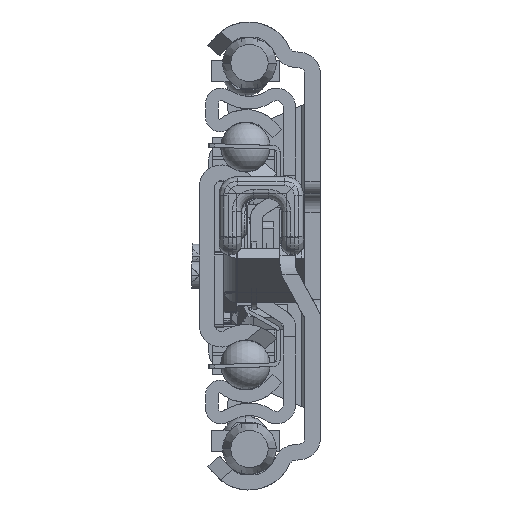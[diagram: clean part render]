
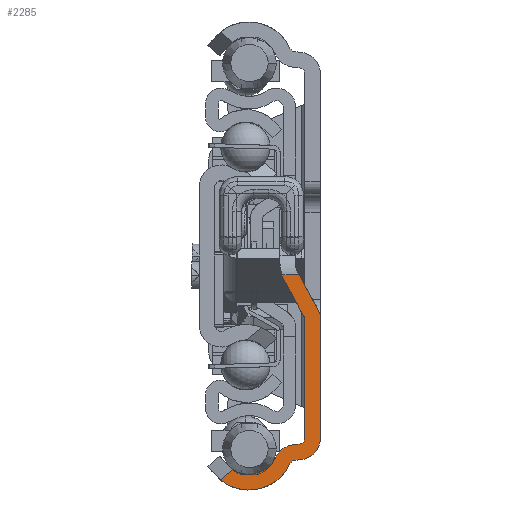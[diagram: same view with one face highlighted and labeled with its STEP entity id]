
A CAD part, left-side view. The second image highlights one B-rep face of the part: STEP entity #2285.
In plain terms, the highlighted planar face has unit normal (-1, 0, 0).
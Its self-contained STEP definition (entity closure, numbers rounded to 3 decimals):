
#45=DIRECTION('',(0.,0.769,-0.639));
#46=VECTOR('',#45,2.575);
#47=CARTESIAN_POINT('',(0.,14.098,
-34.377));
#48=LINE('',#47,#46);
#49=CARTESIAN_POINT('',(0.,11.5,-30.4));
#50=DIRECTION('',(-1.,0.,0.));
#51=DIRECTION('',(0.,0.547,-0.837));
#52=AXIS2_PLACEMENT_3D('',#49,#50,#51);
#54=CARTESIAN_POINT('',(0.,4.008,-33.854));
#55=DIRECTION('',(-1.,0.,0.));
#56=DIRECTION('',(0.,0.087,0.996));
#57=AXIS2_PLACEMENT_3D('',#54,#55,#56);
#59=DIRECTION('',(0.,-0.996,0.087));
#60=VECTOR('',#59,0.904);
#61=CARTESIAN_POINT('',(0.,4.313,-30.368));
#62=LINE('',#61,#60);
#63=DIRECTION('',(0.,0.,1.));
#64=VECTOR('',#63,19.293);
#65=CARTESIAN_POINT('',(0.,2.5,-29.293));
#66=LINE('',#65,#64);
#67=DIRECTION('',(0.,-0.477,-0.879));
#68=VECTOR('',#67,6.873);
#69=CARTESIAN_POINT('',(0.,5.775,-3.958));
#70=LINE('',#69,#68);
#71=CARTESIAN_POINT('',(0.,0.5,-1.099));
#72=DIRECTION('',(-1.,0.,0.));
#73=DIRECTION('',(0.,0.946,-0.324));
#74=AXIS2_PLACEMENT_3D('',#71,#72,#73);
#76=DIRECTION('',(0.,1.,0.));
#77=VECTOR('',#76,2.78);
#78=CARTESIAN_POINT('',(0.,3.397,-3.04));
#79=LINE('',#78,#77);
#80=CARTESIAN_POINT('',(0.,2.5,-9.942));
#81=DIRECTION('',(1.,0.,0.));
#82=DIRECTION('',(0.,-0.879,0.477));
#83=AXIS2_PLACEMENT_3D('',#80,#81,#82);
#85=CARTESIAN_POINT('',(0.,3.5,-29.293));
#86=DIRECTION('',(-1.,0.,0.));
#87=DIRECTION('',(0.,-0.087,-0.996));
#88=AXIS2_PLACEMENT_3D('',#85,#86,#87);
#90=DIRECTION('',(0.,0.996,-0.087));
#91=VECTOR('',#90,0.904);
#92=CARTESIAN_POINT('',(0.,3.195,-32.78));
#93=LINE('',#92,#91);
#94=CARTESIAN_POINT('',(0.,11.5,-30.4));
#95=DIRECTION('',(1.,0.,0.));
#96=DIRECTION('',(0.,-0.908,-0.419));
#97=AXIS2_PLACEMENT_3D('',#94,#95,#96);
#615=DIRECTION('',(0.,0.,1.));
#616=VECTOR('',#615,19.351);
#617=CARTESIAN_POINT('',(0.,0.,-29.293));
#618=LINE('',#617,#616);
#1023=CARTESIAN_POINT('',(0.,16.079,
-36.021));
#1077=CARTESIAN_POINT('',(0.,14.098,
-34.377));
#1366=CARTESIAN_POINT('',(0.,3.5,-29.293));
#1367=DIRECTION('',(1.,0.,0.));
#1368=DIRECTION('',(0.,-1.,0.));
#1369=AXIS2_PLACEMENT_3D('',#1366,#1367,#1368);
#1376=CARTESIAN_POINT('',(0.,4.008,-33.854));
#1377=DIRECTION('',(1.,0.,0.));
#1378=DIRECTION('',(0.,0.908,0.419));
#1379=AXIS2_PLACEMENT_3D('',#1376,#1377,#1378);
#1416=DIRECTION('',(0.,0.477,0.879));
#1417=VECTOR('',#1416,6.495);
#1418=CARTESIAN_POINT('',(0.,0.302,-8.751));
#1419=LINE('',#1418,#1417);
#1423=CARTESIAN_POINT('',(0.,3.397,-3.04));
#1537=CARTESIAN_POINT('',(0.,6.177,-3.04));
#1730=CARTESIAN_POINT('',(0.,2.5,-29.293));
#1731=CARTESIAN_POINT('',(0.,3.413,-30.289));
#1732=VERTEX_POINT('',#1730);
#1733=VERTEX_POINT('',#1731);
#1742=CARTESIAN_POINT('',(0.,4.916,-33.436));
#1743=CARTESIAN_POINT('',(0.,4.095,-32.858));
#1744=VERTEX_POINT('',#1742);
#1745=VERTEX_POINT('',#1743);
#1746=CARTESIAN_POINT('',(0.,4.313,-30.368));
#1747=CARTESIAN_POINT('',(0.,7.186,-32.389));
#1748=VERTEX_POINT('',#1746);
#1749=VERTEX_POINT('',#1747);
#1758=CARTESIAN_POINT('',(0.,3.195,-32.78));
#1759=CARTESIAN_POINT('',(0.,0.,-29.293));
#1760=VERTEX_POINT('',#1758);
#1761=VERTEX_POINT('',#1759);
#2130=VERTEX_POINT('',#1023);
#2138=VERTEX_POINT('',#1077);
#2163=CARTESIAN_POINT('',(0.,2.5,-10.));
#2164=VERTEX_POINT('',#2163);
#2201=VERTEX_POINT('',#1423);
#2202=CARTESIAN_POINT('',(0.,0.302,-8.751));
#2203=VERTEX_POINT('',#2202);
#2205=CARTESIAN_POINT('',(0.,0.,-9.942));
#2206=VERTEX_POINT('',#2205);
#2211=VERTEX_POINT('',#1537);
#2212=CARTESIAN_POINT('',(0.,5.775,-3.958));
#2213=VERTEX_POINT('',#2212);
#2246=CARTESIAN_POINT('',(0.,0.,0.));
#2247=DIRECTION('',(1.,0.,0.));
#2248=DIRECTION('',(0.,-1.,0.));
#2249=AXIS2_PLACEMENT_3D('',#2246,#2247,#2248);
#2250=PLANE('',#2249);
#2252=ORIENTED_EDGE('',*,*,#2251,.F.);
#2254=ORIENTED_EDGE('',*,*,#2253,.T.);
#2256=ORIENTED_EDGE('',*,*,#2255,.F.);
#2258=ORIENTED_EDGE('',*,*,#2257,.T.);
#2260=ORIENTED_EDGE('',*,*,#2259,.F.);
#2262=ORIENTED_EDGE('',*,*,#2261,.T.);
#2264=ORIENTED_EDGE('',*,*,#2263,.F.);
#2266=ORIENTED_EDGE('',*,*,#2265,.F.);
#2268=ORIENTED_EDGE('',*,*,#2267,.F.);
#2270=ORIENTED_EDGE('',*,*,#2269,.F.);
#2272=ORIENTED_EDGE('',*,*,#2271,.T.);
#2274=ORIENTED_EDGE('',*,*,#2273,.F.);
#2276=ORIENTED_EDGE('',*,*,#2275,.F.);
#2278=ORIENTED_EDGE('',*,*,#2277,.T.);
#2280=ORIENTED_EDGE('',*,*,#2279,.F.);
#2282=ORIENTED_EDGE('',*,*,#2281,.T.);
#2283=EDGE_LOOP('',(#2252,#2254,#2256,#2258,#2260,#2262,#2264,#2266,#2268,#2270,
#2272,#2274,#2276,#2278,#2280,#2282));
#2284=FACE_OUTER_BOUND('',#2283,.F.);
#53=CIRCLE('',#52,4.75);
#58=CIRCLE('',#57,3.5);
#75=CIRCLE('',#74,6.);
#84=CIRCLE('',#83,2.5);
#89=CIRCLE('',#88,3.5);
#98=CIRCLE('',#97,7.25);
#1370=CIRCLE('',#1369,1.);
#1380=CIRCLE('',#1379,1.);
#2251=EDGE_CURVE('',#2138,#2130,#48,.T.);
#2253=EDGE_CURVE('',#2138,#1749,#53,.T.);
#2255=EDGE_CURVE('',#1748,#1749,#58,.T.);
#2257=EDGE_CURVE('',#1748,#1733,#62,.T.);
#2259=EDGE_CURVE('',#1732,#1733,#1370,.T.);
#2261=EDGE_CURVE('',#1732,#2164,#66,.T.);
#2263=EDGE_CURVE('',#2213,#2164,#70,.T.);
#2265=EDGE_CURVE('',#2211,#2213,#75,.T.);
#2267=EDGE_CURVE('',#2201,#2211,#79,.T.);
#2269=EDGE_CURVE('',#2203,#2201,#1419,.T.);
#2271=EDGE_CURVE('',#2203,#2206,#84,.T.);
#2273=EDGE_CURVE('',#1761,#2206,#618,.T.);
#2275=EDGE_CURVE('',#1760,#1761,#89,.T.);
#2277=EDGE_CURVE('',#1760,#1745,#93,.T.);
#2279=EDGE_CURVE('',#1744,#1745,#1380,.T.);
#2281=EDGE_CURVE('',#1744,#2130,#98,.T.);
#2285=ADVANCED_FACE('',(#2284),#2250,.F.);
